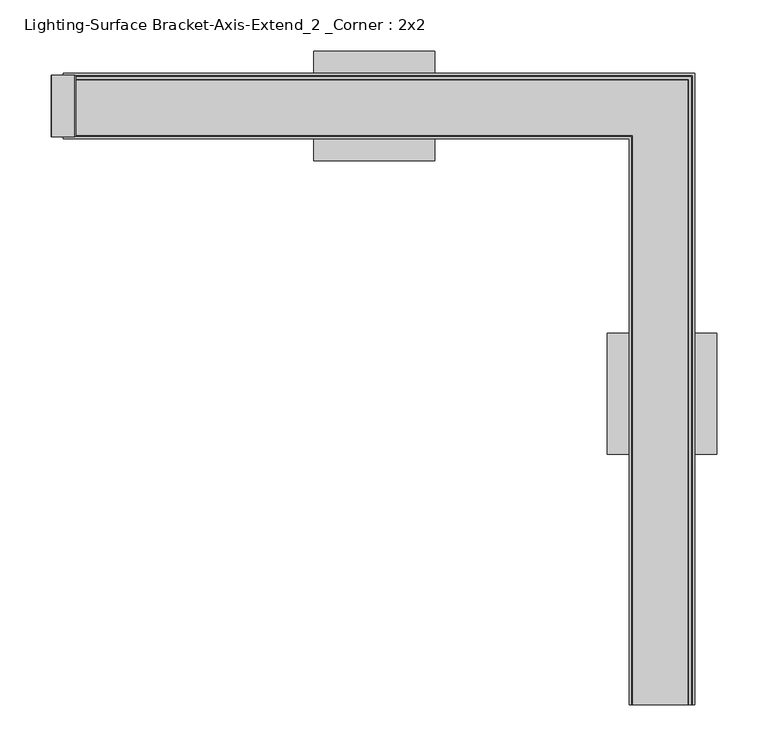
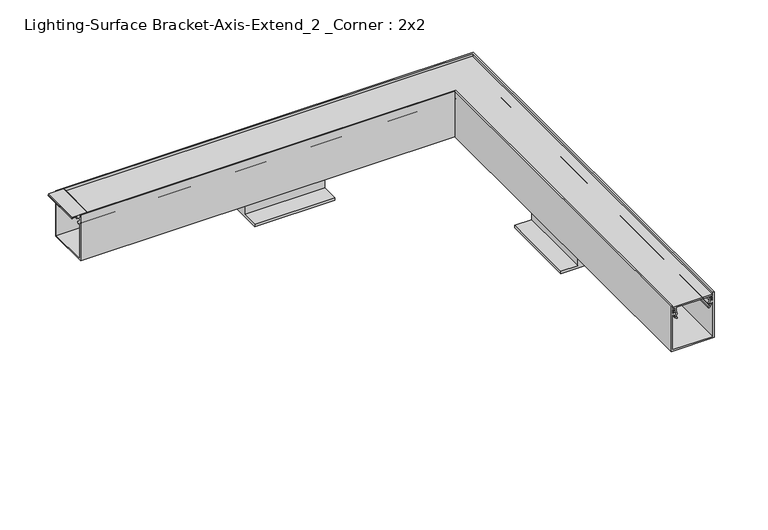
"""IFC4 building model written with IfcOpenShell, lengths in millimetres: light fixture geometry, Lighting-Surface Bracket-Axis-Extend_2 _Corner : 2x2."""

from ifc_helpers import new_model, si_unit, frame, origin, place, context, project, spatial, polyline, circle_curve, ellipse_curve, outline, extrude, source, transform, mapped, element, save
from ifc_brep_helpers import plane_surface, cylinder_surface, revolved_surface, advanced_brep


def lighting_surface_bracket_axis_extend_2_corner_2x2_9cdd9982(model_context):
    return source(origin(), model_context, "Body", "SolidModel", [
        extrude(outline(polyline([(19.05, 244.3861), (3.9878, 244.3861), (3.9878, 218.9860665), (0.0, 218.9860665), (0.0, 326.6059335), (3.9878, 326.6059335), (3.9878, 301.2059), (19.05, 301.2059), (19.05, 244.3861)])), frame((0.0, -341.30234, 0.0), z_axis=(0.0, 1.0, 0.0), x_axis=(0.0, 0.0, 1.0)), (0.0, 0.0, 1.0), 118.69928),
        extrude(outline(polyline([(-28.4099, 19.05), (28.4099, 19.05), (28.4099, 3.9878), (53.8099335, 3.9878), (53.8099335, 0.0), (-53.8099335, 0.0), (-53.8099335, 3.9878), (-28.4099, 3.9878), (-28.4099, 19.05)])), frame((-68.50634, 0.0, 0.0), z_axis=(1.0, 0.0, 0.0), x_axis=(0.0, 1.0, 0.0)), (0.0, 0.0, 1.0), 118.69928),
        extrude(outline(polyline([(89.3857861, -301.8536), (90.4875, -302.7781437), (90.4875, -325.1352563), (89.3857861, -326.0598), (87.91575, -326.0598), (87.91575, -325.26605), (88.7095, -325.26605), (88.7095, -318.7954), (85.9032981, -318.7954), (85.9032981, -309.118), (88.7095, -309.118), (88.7095, -302.64735), (87.91575, -302.64735), (87.91575, -301.8536), (89.3857861, -301.8536)])), frame((0.0, -29.972, 0.0), z_axis=(0.0, 1.0, 0.0), x_axis=(0.0, 0.0, 1.0)), (0.0, 0.0, 1.0), 59.944),
        advanced_brep(
        [(-304.8, -24.1727262, 85.5979991), (-304.8, -24.5114181, 79.1353737), (-304.8, -25.3818814, 72.5294903), (-304.8, -24.5665956, 71.0317575), (-304.8, -23.2119066, 69.8323555), (-304.8, -24.192808, 68.5043369), (-304.8, -25.7659952, 69.8971908), (-304.8, -27.1108807, 73.72776), (-304.8, -25.4753941, 77.7669658), (-304.8, -26.1394859, 79.6161789), (-304.8, -25.825992, 85.5979991), (-304.8, -28.829, 85.5979991), (-304.8, -28.829, 87.503), (-304.8, 28.829, 87.503), (-304.8, 28.829, 85.5979991), (-304.8, 25.825992, 85.5979991), (-304.8, 26.1394859, 79.6161789), (-304.8, 25.4753941, 77.7669658), (-304.8, 27.1108807, 73.72776), (-304.8, 25.7659952, 69.8971908), (-304.8, 24.192808, 68.5043369), (-304.8, 23.2119066, 69.8323555), (-304.8, 24.5665956, 71.0317575), (-304.8, 25.3818814, 72.5294903), (-304.8, 24.5114181, 79.1353737), (-304.8, 24.1727262, 85.5979991), (248.6232738, -586.7527, 85.5979991), (296.9687262, -586.7527, 85.5979991), (297.3074181, -586.7527, 79.1353737), (298.1778814, -586.7527, 72.5294903), (297.3625956, -586.7527, 71.0317575), (296.0079066, -586.7527, 69.8323555), (296.988808, -586.7527, 68.5043369), (298.5619952, -586.7527, 69.8971908), (299.9068807, -586.7527, 73.72776), (298.2713941, -586.7527, 77.7669658), (298.9354859, -586.7527, 79.6161789), (298.621992, -586.7527, 85.5979991), (301.625, -586.7527, 85.5979991), (301.625, -586.7527, 87.503), (243.967, -586.7527, 87.503), (243.967, -586.7527, 85.5979991), (246.970008, -586.7527, 85.5979991), (246.6565141, -586.7527, 79.6161789), (247.3206059, -586.7527, 77.7669658), (245.6851193, -586.7527, 73.72776), (247.0300048, -586.7527, 69.8971908), (248.603192, -586.7527, 68.5043369), (249.5840934, -586.7527, 69.8323555), (248.2294044, -586.7527, 71.0317575), (247.4141186, -586.7527, 72.5294903), (248.2845819, -586.7527, 79.1353737), (248.6232738, -24.1727262, 85.5979991), (248.2845819, -24.5114181, 79.1353737), (247.4141186, -25.3818814, 72.5294903), (248.2294044, -24.5665956, 71.0317575), (249.5840934, -23.2119066, 69.8323555), (248.603192, -24.192808, 68.5043369), (247.0300048, -25.7659952, 69.8971908), (245.6851193, -27.1108807, 73.72776), (247.3206059, -25.4753941, 77.7669658), (246.6565141, -26.1394859, 79.6161789), (246.970008, -25.825992, 85.5979991), (243.967, -28.829, 85.5979991), (243.967, -28.829, 87.503), (301.625, 28.829, 87.503), (301.625, 28.829, 85.5979991), (298.621992, 25.825992, 85.5979991), (298.9354859, 26.1394859, 79.6161789), (298.2713941, 25.4753941, 77.7669658), (299.9068807, 27.1108807, 73.72776), (298.5619952, 25.7659952, 69.8971908), (296.988808, 24.192808, 68.5043369), (296.0079066, 23.2119066, 69.8323555), (297.3625956, 24.5665956, 71.0317575), (298.1778814, 25.3818814, 72.5294903), (297.3074181, 24.5114181, 79.1353737), (296.9687262, 24.1727262, 85.5979991)],
        [
            (0, 1),
            (1, 2, circle_curve(frame((-304.8, -27.2542, 76.1365), z_axis=(-1.0, 0.0, 0.0), x_axis=(0.0, 0.6748971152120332, 0.7379118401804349)), 4.064)),
            (2, 3, circle_curve(frame((-304.8, -22.149344, 73.3183457), z_axis=(1.0, 0.0, 0.0), x_axis=(0.0, -0.9714904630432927, -0.23707863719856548)), 3.3274001)),
            (3, 4, circle_curve(frame((-304.8, -17.1303177, 78.0660708), z_axis=(1.0, 0.0, 0.0), x_axis=(0.0, -0.7264901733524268, -0.68717685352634)), 10.2362001)),
            (4, 5, circle_curve(frame((-304.8, -23.7023573, 69.1683462), z_axis=(-1.0, 0.0, 0.0), x_axis=(0.0, 0.5941256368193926, 0.8043722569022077)), 0.8255)),
            (5, 6, circle_curve(frame((-304.8, -17.1303169, 78.0660717), z_axis=(-1.0, 0.0, 0.0), x_axis=(0.0, -0.594125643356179, -0.8043722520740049)), 11.8872013)),
            (6, 7, circle_curve(frame((-304.8, -22.149344, 73.3183457), z_axis=(-1.0, 0.0, 0.0), x_axis=(0.0, -0.7264685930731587, -0.6871996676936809)), 4.9784001)),
            (7, 8, circle_curve(frame((-304.8, -27.2542, 76.1365), z_axis=(1.0, 0.0, 0.0), x_axis=(0.0, 0.05939464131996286, -0.9982345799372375)), 2.413)),
            (8, 9, circle_curve(frame((-304.8, -23.6029669, 79.4832456), z_axis=(-1.0, 0.0, 0.0), x_axis=(0.0, -0.7371760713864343, -0.675700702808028)), 2.54)),
            (9, 10),
            (10, 11),
            (11, 12),
            (12, 13),
            (13, 14),
            (14, 15),
            (15, 16),
            (16, 17, circle_curve(frame((-304.8, 23.6029669, 79.4832456), z_axis=(-1.0, 0.0, 0.0), x_axis=(0.0, 0.9986295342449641, 0.05233596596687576)), 2.54)),
            (17, 18, circle_curve(frame((-304.8, 27.2542, 76.1365), z_axis=(1.0, 0.0, 0.0), x_axis=(0.0, -0.7371760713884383, 0.6757007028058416)), 2.413)),
            (18, 19, circle_curve(frame((-304.8, 22.149344, 73.3183457), z_axis=(-1.0, 0.0, 0.0), x_axis=(0.0, 0.9966127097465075, 0.0822381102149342)), 4.9784001)),
            (19, 20, circle_curve(frame((-304.8, 17.1303169, 78.0660717), z_axis=(-1.0, 0.0, 0.0), x_axis=(0.0, 0.7264685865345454, -0.6871996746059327)), 11.8872013)),
            (20, 21, circle_curve(frame((-304.8, 23.7023573, 69.1683462), z_axis=(-1.0, 0.0, 0.0), x_axis=(0.0, 0.5941256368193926, -0.8043722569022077)), 0.8255)),
            (21, 22, circle_curve(frame((-304.8, 17.1303177, 78.0660708), z_axis=(1.0, 0.0, 0.0), x_axis=(0.0, 0.5941256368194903, -0.8043722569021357)), 10.2362001)),
            (22, 23, circle_curve(frame((-304.8, 22.149344, 73.3183457), z_axis=(1.0, 0.0, 0.0), x_axis=(0.0, 0.7265349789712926, -0.6871294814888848)), 3.3274001)),
            (23, 24, circle_curve(frame((-304.8, 27.2542, 76.1365), z_axis=(-1.0, 0.0, 0.0), x_axis=(0.0, -0.46070831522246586, -0.8875516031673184)), 4.064)),
            (24, 25),
            (25, 0),
            (26, 27),
            (27, 28),
            (28, 29, circle_curve(frame((300.0502, -586.7527, 76.1365), z_axis=(0.0, -1.0, 0.0), x_axis=(-0.46070831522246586, 0.0, -0.8875516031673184)), 4.064)),
            (29, 30, circle_curve(frame((294.945344, -586.7527, 73.3183457), z_axis=(0.0, 1.0, 0.0), x_axis=(0.7265349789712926, 0.0, -0.6871294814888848)), 3.3274001)),
            (30, 31, circle_curve(frame((289.9263177, -586.7527, 78.0660708), z_axis=(0.0, 1.0, 0.0), x_axis=(0.5941256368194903, 0.0, -0.8043722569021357)), 10.2362001)),
            (31, 32, circle_curve(frame((296.4983573, -586.7527, 69.1683462), z_axis=(0.0, -1.0, 0.0), x_axis=(0.5941256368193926, 0.0, -0.8043722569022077)), 0.8255)),
            (32, 33, circle_curve(frame((289.9263169, -586.7527, 78.0660717), z_axis=(0.0, -1.0, 0.0), x_axis=(0.7264685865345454, 0.0, -0.6871996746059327)), 11.8872013)),
            (33, 34, circle_curve(frame((294.945344, -586.7527, 73.3183457), z_axis=(0.0, -1.0, 0.0), x_axis=(0.9966127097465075, 0.0, 0.0822381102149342)), 4.9784001)),
            (34, 35, circle_curve(frame((300.0502, -586.7527, 76.1365), z_axis=(0.0, 1.0, 0.0), x_axis=(-0.7371760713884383, 0.0, 0.6757007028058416)), 2.413)),
            (35, 36, circle_curve(frame((296.3989669, -586.7527, 79.4832456), z_axis=(0.0, -1.0, 0.0), x_axis=(0.9986295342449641, 0.0, 0.05233596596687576)), 2.54)),
            (36, 37),
            (37, 38),
            (38, 39),
            (39, 40),
            (40, 41),
            (41, 42),
            (42, 43),
            (43, 44, circle_curve(frame((249.1930331, -586.7527, 79.4832456), z_axis=(0.0, -1.0, 0.0), x_axis=(-0.7371760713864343, 0.0, -0.675700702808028)), 2.54)),
            (44, 45, circle_curve(frame((245.5418, -586.7527, 76.1365), z_axis=(0.0, 1.0, 0.0), x_axis=(0.05939464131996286, 0.0, -0.9982345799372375)), 2.413)),
            (45, 46, circle_curve(frame((250.646656, -586.7527, 73.3183457), z_axis=(0.0, -1.0, 0.0), x_axis=(-0.7264685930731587, 0.0, -0.6871996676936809)), 4.9784001)),
            (46, 47, circle_curve(frame((255.6656831, -586.7527, 78.0660717), z_axis=(0.0, -1.0, 0.0), x_axis=(-0.594125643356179, 0.0, -0.8043722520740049)), 11.8872013)),
            (47, 48, circle_curve(frame((249.0936427, -586.7527, 69.1683462), z_axis=(0.0, -1.0, 0.0), x_axis=(0.5941256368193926, 0.0, 0.8043722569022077)), 0.8255)),
            (48, 49, circle_curve(frame((255.6656823, -586.7527, 78.0660708), z_axis=(0.0, 1.0, 0.0), x_axis=(-0.7264901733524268, 0.0, -0.68717685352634)), 10.2362001)),
            (49, 50, circle_curve(frame((250.646656, -586.7527, 73.3183457), z_axis=(0.0, 1.0, 0.0), x_axis=(-0.9714904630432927, 0.0, -0.23707863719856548)), 3.3274001)),
            (50, 51, circle_curve(frame((245.5418, -586.7527, 76.1365), z_axis=(0.0, -1.0, 0.0), x_axis=(0.6748971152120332, 0.0, 0.7379118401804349)), 4.064)),
            (51, 26),
            (0, 52),
            (52, 53),
            (53, 1),
            (53, 54, ellipse_curve(frame((245.5418, -27.2542, 76.1365), z_axis=(-0.7071067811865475, 0.7071067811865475, 0.0), x_axis=(-0.7071067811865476, -0.7071067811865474, 0.0)), 5.7473639, 4.064)),
            (54, 2),
            (54, 55, ellipse_curve(frame((250.646656, -22.149344, 73.3183457), z_axis=(0.7071067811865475, -0.7071067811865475, 0.0), x_axis=(0.7071067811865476, 0.7071067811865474, 0.0)), 4.7056543, 3.3274001)),
            (55, 3),
            (55, 56, ellipse_curve(frame((255.6656823, -17.1303177, 78.0660708), z_axis=(0.7071067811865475, -0.7071067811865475, 0.0), x_axis=(0.7071067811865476, 0.7071067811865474, 0.0)), 14.476173, 10.2362001)),
            (56, 4),
            (56, 57, ellipse_curve(frame((249.0936427, -23.7023573, 69.1683462), z_axis=(-0.7071067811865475, 0.7071067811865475, 0.0), x_axis=(-0.7071067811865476, -0.7071067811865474, 0.0)), 1.1674333, 0.8255)),
            (57, 5),
            (57, 58, ellipse_curve(frame((255.6656831, -17.1303169, 78.0660717), z_axis=(-0.7071067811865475, 0.7071067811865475, 0.0), x_axis=(-0.7071067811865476, -0.7071067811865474, 0.0)), 16.8110412, 11.8872013)),
            (58, 6),
            (58, 59, ellipse_curve(frame((250.646656, -22.149344, 73.3183457), z_axis=(-0.7071067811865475, 0.7071067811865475, 0.0), x_axis=(-0.7071067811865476, -0.7071067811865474, 0.0)), 7.0405209, 4.9784001)),
            (59, 7),
            (59, 60, ellipse_curve(frame((245.5418, -27.2542, 76.1365), z_axis=(0.7071067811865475, -0.7071067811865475, 0.0), x_axis=(0.7071067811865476, 0.7071067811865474, 0.0)), 3.4124973, 2.413)),
            (60, 8),
            (60, 61, ellipse_curve(frame((249.1930331, -23.6029669, 79.4832456), z_axis=(-0.7071067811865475, 0.7071067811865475, 0.0), x_axis=(-0.7071067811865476, -0.7071067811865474, 0.0)), 3.5921024, 2.54)),
            (61, 9),
            (61, 62),
            (62, 10),
            (62, 42),
            (41, 63),
            (63, 11),
            (63, 64),
            (64, 12),
            (64, 40),
            (39, 65),
            (65, 13),
            (65, 66),
            (66, 14),
            (66, 38),
            (37, 67),
            (67, 15),
            (67, 68),
            (68, 16),
            (68, 69, ellipse_curve(frame((296.3989669, 23.6029669, 79.4832456), z_axis=(-0.7071067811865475, 0.7071067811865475, 0.0), x_axis=(-0.7071067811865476, -0.7071067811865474, 0.0)), 3.5921024, 2.54)),
            (69, 17),
            (69, 70, ellipse_curve(frame((300.0502, 27.2542, 76.1365), z_axis=(0.7071067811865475, -0.7071067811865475, 0.0), x_axis=(0.7071067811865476, 0.7071067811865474, 0.0)), 3.4124973, 2.413)),
            (70, 18),
            (70, 71, ellipse_curve(frame((294.945344, 22.149344, 73.3183457), z_axis=(-0.7071067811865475, 0.7071067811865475, 0.0), x_axis=(-0.7071067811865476, -0.7071067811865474, 0.0)), 7.0405209, 4.9784001)),
            (71, 19),
            (71, 72, ellipse_curve(frame((289.9263169, 17.1303169, 78.0660717), z_axis=(-0.7071067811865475, 0.7071067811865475, 0.0), x_axis=(-0.7071067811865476, -0.7071067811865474, 0.0)), 16.8110412, 11.8872013)),
            (72, 20),
            (72, 73, ellipse_curve(frame((296.4983573, 23.7023573, 69.1683462), z_axis=(-0.7071067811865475, 0.7071067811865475, 0.0), x_axis=(-0.7071067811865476, -0.7071067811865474, 0.0)), 1.1674333, 0.8255)),
            (73, 21),
            (73, 74, ellipse_curve(frame((289.9263177, 17.1303177, 78.0660708), z_axis=(0.7071067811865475, -0.7071067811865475, 0.0), x_axis=(0.7071067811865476, 0.7071067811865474, 0.0)), 14.476173, 10.2362001)),
            (74, 22),
            (74, 75, ellipse_curve(frame((294.945344, 22.149344, 73.3183457), z_axis=(0.7071067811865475, -0.7071067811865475, 0.0), x_axis=(0.7071067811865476, 0.7071067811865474, 0.0)), 4.7056543, 3.3274001)),
            (75, 23),
            (75, 76, ellipse_curve(frame((300.0502, 27.2542, 76.1365), z_axis=(-0.7071067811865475, 0.7071067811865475, 0.0), x_axis=(-0.7071067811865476, -0.7071067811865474, 0.0)), 5.7473639, 4.064)),
            (76, 24),
            (76, 77),
            (77, 25),
            (77, 27),
            (26, 52),
            (51, 53),
            (50, 54),
            (49, 55),
            (48, 56),
            (47, 57),
            (46, 58),
            (45, 59),
            (44, 60),
            (43, 61),
            (36, 68),
            (35, 69),
            (34, 70),
            (33, 71),
            (32, 72),
            (31, 73),
            (30, 74),
            (29, 75),
            (28, 76),
        ],
        [
            plane_surface(frame((-304.8, 0.0, 0.0), z_axis=(-1.0, 0.0, 0.0), x_axis=(0.0, 0.0, 1.0))),
            plane_surface(frame((272.796, -586.7527, 0.0), z_axis=(0.0, -1.0, 0.0), x_axis=(0.0, 0.0, 1.0))),
            plane_surface(frame((-304.8, -24.1727262, 85.5979991), z_axis=(0.0, 0.9986295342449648, -0.05233596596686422), x_axis=(1.0, 0.0, 0.0))),
            cylinder_surface(frame((-304.8, -27.2542, 76.1365), z_axis=(-1.0, 0.0, 0.0), x_axis=(0.0, 0.6748971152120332, 0.7379118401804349)), 4.064),
            revolved_surface(polyline([(253.97405606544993, -25.3818814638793, 72.52949021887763), (-304.8, -25.3818814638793, 72.52949021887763)]), (-304.8, -22.149344, 73.3183457), (1.0000000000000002, 0.0, 0.0)),
            revolved_surface(polyline([(265.9018823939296, -24.566816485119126, 71.031991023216), (-304.8, -24.566816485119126, 71.031991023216)]), (-304.8, -17.1303177, 78.0660708), (1.0, 0.0, 0.0)),
            cylinder_surface(frame((-304.8, -23.7023573, 69.1683462), z_axis=(-1.0, 0.0, 0.0), x_axis=(0.0, 0.5941256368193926, 0.8043722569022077)), 0.8255),
            cylinder_surface(frame((-304.8, -17.1303169, 78.0660717), z_axis=(-1.0, 0.0, 0.0), x_axis=(0.0, -0.594125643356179, -0.8043722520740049)), 11.8872013),
            cylinder_surface(frame((-304.8, -22.149344, 73.3183457), z_axis=(-1.0, 0.0, 0.0), x_axis=(0.0, -0.7264685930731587, -0.6871996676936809)), 4.9784001),
            revolved_surface(polyline([(247.95479998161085, -27.11088073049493, 73.72775995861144), (-304.8, -27.11088073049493, 73.72775995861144)]), (-304.8, -27.2542, 76.1365), (1.0, 0.0, 0.0)),
            cylinder_surface(frame((-304.8, -23.6029669, 79.4832456), z_axis=(-1.0, 0.0, 0.0), x_axis=(0.0, -0.7371760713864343, -0.675700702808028)), 2.54),
            plane_surface(frame((-304.8, -26.1394859, 79.6161789), z_axis=(0.0, -0.9986295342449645, 0.05233596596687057), x_axis=(1.0, 0.0, 0.0))),
            plane_surface(frame((-304.8, -25.825992, 85.5979991), z_axis=(0.0, 0.0, -1.0), x_axis=(1.0, 0.0, 0.0))),
            plane_surface(frame((-304.8, -28.829, 85.5979991), z_axis=(0.0, -1.0, 0.0), x_axis=(1.0, 0.0, 0.0))),
            plane_surface(frame((-304.8, -28.829, 87.503), z_axis=(0.0, 0.0, 1.0), x_axis=(1.0, 0.0, 0.0))),
            plane_surface(frame((-304.8, 28.829, 87.503), z_axis=(0.0, 1.0, 0.0), x_axis=(1.0, 0.0, 0.0))),
            plane_surface(frame((-304.8, 28.829, 85.5979991), z_axis=(0.0, 0.0, -1.0), x_axis=(1.0, 0.0, 0.0))),
            plane_surface(frame((-304.8, 25.825992, 85.5979991), z_axis=(0.0, 0.9986295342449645, 0.05233596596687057), x_axis=(1.0, 0.0, 0.0))),
            cylinder_surface(frame((-304.8, 23.6029669, 79.4832456), z_axis=(-1.0, 0.0, 0.0), x_axis=(0.0, 0.9986295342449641, 0.05233596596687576)), 2.54),
            revolved_surface(polyline([(302.4631999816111, 25.4753941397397, 77.76696579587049), (-304.8, 25.4753941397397, 77.76696579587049)]), (-304.8, 27.2542, 76.1365), (1.0000000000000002, 0.0, 0.0)),
            cylinder_surface(frame((-304.8, 22.149344, 73.3183457), z_axis=(-1.0000000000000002, 0.0, 0.0), x_axis=(0.0, 0.9966127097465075, 0.0822381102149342)), 4.9784001),
            cylinder_surface(frame((-304.8, 17.1303169, 78.0660717), z_axis=(-1.0, 0.0, 0.0), x_axis=(0.0, 0.7264685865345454, -0.6871996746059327)), 11.8872013),
            cylinder_surface(frame((-304.8, 23.7023573, 69.1683462), z_axis=(-1.0, 0.0, 0.0), x_axis=(0.0, 0.5941256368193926, -0.8043722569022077)), 0.8255),
            revolved_surface(polyline([(300.16251779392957, 23.21190660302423, 69.83235542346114), (-304.8, 23.21190660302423, 69.83235542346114)]), (-304.8, 17.1303177, 78.0660708), (1.0, 0.0, 0.0)),
            revolved_surface(polyline([(298.2727440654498, 24.566816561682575, 71.03199099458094), (-304.8, 24.566816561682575, 71.03199099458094)]), (-304.8, 22.149344, 73.3183457), (1.0000000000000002, 0.0, 0.0)),
            cylinder_surface(frame((-304.8, 27.2542, 76.1365), z_axis=(-1.0, 0.0, 0.0), x_axis=(0.0, -0.46070831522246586, -0.8875516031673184)), 4.064),
            plane_surface(frame((-304.8, 24.5114181, 79.1353737), z_axis=(0.0, -0.9986295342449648, -0.05233596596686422), x_axis=(1.0, 0.0, 0.0))),
            plane_surface(frame((-304.8, 24.1727262, 85.5979991), z_axis=(0.0, 0.0, -1.0), x_axis=(1.0, 0.0, 0.0))),
            plane_surface(frame((248.6232738, -24.1727262, 85.5979991), z_axis=(0.9986295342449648, 0.0, -0.05233596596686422), x_axis=(0.0, -1.0, 0.0))),
            cylinder_surface(frame((245.5418, 0.0, 76.1365), z_axis=(0.0, 1.0, 0.0), x_axis=(0.6748971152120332, 0.0, 0.7379118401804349)), 4.064),
            revolved_surface(polyline([(247.4141185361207, -586.7527000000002, 72.52949021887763), (247.4141185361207, -18.82194393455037, 72.52949021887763)]), (250.646656, 0.0, 73.3183457), (0.0, -1.0000000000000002, 0.0)),
            revolved_surface(polyline([(248.22918351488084, -586.7527, 71.031991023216), (248.22918351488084, -6.894117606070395, 71.031991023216)]), (255.6656823, 0.0, 78.0660708), (0.0, -1.0, 0.0)),
            cylinder_surface(frame((249.0936427, 0.0, 69.1683462), z_axis=(0.0, 1.0, 0.0), x_axis=(0.5941256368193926, 0.0, 0.8043722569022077)), 0.8255),
            cylinder_surface(frame((255.6656831, 0.0, 78.0660717), z_axis=(0.0, 1.0, 0.0), x_axis=(-0.594125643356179, 0.0, -0.8043722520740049)), 11.8872013),
            cylinder_surface(frame((250.646656, 0.0, 73.3183457), z_axis=(0.0, 1.0, 0.0), x_axis=(-0.7264685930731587, 0.0, -0.6871996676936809)), 4.9784001),
            revolved_surface(polyline([(245.68511926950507, -586.7527, 73.72775995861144), (245.68511926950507, -24.841200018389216, 73.72775995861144)]), (245.5418, 0.0, 76.1365), (0.0, -1.0, 0.0)),
            cylinder_surface(frame((249.1930331, 0.0, 79.4832456), z_axis=(0.0, 1.0, 0.0), x_axis=(-0.7371760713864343, 0.0, -0.675700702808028)), 2.54),
            plane_surface(frame((246.6565141, -26.1394859, 79.6161789), z_axis=(-0.9986295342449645, 0.0, 0.05233596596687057), x_axis=(0.0, -1.0, 0.0))),
            plane_surface(frame((243.967, -28.829, 85.5979991), z_axis=(-1.0, 0.0, 0.0), x_axis=(0.0, -1.0, 0.0))),
            plane_surface(frame((301.625, 28.829, 87.503), z_axis=(1.0, 0.0, 0.0), x_axis=(0.0, -1.0, 0.0))),
            plane_surface(frame((298.621992, 25.825992, 85.5979991), z_axis=(0.9986295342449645, 0.0, 0.05233596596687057), x_axis=(0.0, -1.0, 0.0))),
            cylinder_surface(frame((296.3989669, 0.0, 79.4832456), z_axis=(0.0, 1.0, 0.0), x_axis=(0.9986295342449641, 0.0, 0.05233596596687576)), 2.54),
            revolved_surface(polyline([(298.2713941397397, -586.7527000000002, 77.76696579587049), (298.2713941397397, 29.6671999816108, 77.76696579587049)]), (300.0502, 0.0, 76.1365), (0.0, -1.0000000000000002, 0.0)),
            cylinder_surface(frame((294.945344, 0.0, 73.3183457), z_axis=(0.0, 1.0000000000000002, 0.0), x_axis=(0.9966127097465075, 0.0, 0.0822381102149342)), 4.9784001),
            cylinder_surface(frame((289.9263169, 0.0, 78.0660717), z_axis=(0.0, 1.0, 0.0), x_axis=(0.7264685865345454, 0.0, -0.6871996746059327)), 11.8872013),
            cylinder_surface(frame((296.4983573, 0.0, 69.1683462), z_axis=(0.0, 1.0, 0.0), x_axis=(0.5941256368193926, 0.0, -0.8043722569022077)), 0.8255),
            revolved_surface(polyline([(296.00790660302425, -586.7527, 69.83235542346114), (296.00790660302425, 27.366517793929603, 69.83235542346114)]), (289.9263177, 0.0, 78.0660708), (0.0, -1.0, 0.0)),
            revolved_surface(polyline([(297.36281656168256, -586.7527000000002, 71.03199099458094), (297.36281656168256, 25.476744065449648, 71.03199099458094)]), (294.945344, 0.0, 73.3183457), (0.0, -1.0000000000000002, 0.0)),
            cylinder_surface(frame((300.0502, 0.0, 76.1365), z_axis=(0.0, 1.0, 0.0), x_axis=(-0.46070831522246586, 0.0, -0.8875516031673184)), 4.064),
            plane_surface(frame((297.3074181, 24.5114181, 79.1353737), z_axis=(-0.9986295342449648, 0.0, -0.05233596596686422), x_axis=(0.0, -1.0, 0.0))),
        ],
        [
            (0, [[1, 2, 3, 4, 5, 6, 7, 8, 9, 10, 11, 12, 13, 14, 15, 16, 17, 18, 19, 20, 21, 22, 23, 24, 25, 26]]),
            (1, [[27, 28, 29, 30, 31, 32, 33, 34, 35, 36, 37, 38, 39, 40, 41, 42, 43, 44, 45, 46, 47, 48, 49, 50, 51, 52]]),
            (2, [[-1, 53, 54, 55]]),
            (3, [[-2, -55, 56, 57]]),
            (4, [[-3, -57, 58, 59]]),
            (5, [[-4, -59, 60, 61]]),
            (6, [[-5, -61, 62, 63]]),
            (7, [[-6, -63, 64, 65]]),
            (8, [[-7, -65, 66, 67]]),
            (9, [[-8, -67, 68, 69]]),
            (10, [[-9, -69, 70, 71]]),
            (11, [[-10, -71, 72, 73]]),
            (12, [[-11, -73, 74, -42, 75, 76]]),
            (13, [[-12, -76, 77, 78]]),
            (14, [[-13, -78, 79, -40, 80, 81]]),
            (15, [[-14, -81, 82, 83]]),
            (16, [[-15, -83, 84, -38, 85, 86]]),
            (17, [[-16, -86, 87, 88]]),
            (18, [[-17, -88, 89, 90]]),
            (19, [[-18, -90, 91, 92]]),
            (20, [[-19, -92, 93, 94]]),
            (21, [[-20, -94, 95, 96]]),
            (22, [[-21, -96, 97, 98]]),
            (23, [[-22, -98, 99, 100]]),
            (24, [[-23, -100, 101, 102]]),
            (25, [[-24, -102, 103, 104]]),
            (26, [[-25, -104, 105, 106]]),
            (27, [[-26, -106, 107, -27, 108, -53]]),
            (28, [[-54, -108, -52, 109]]),
            (29, [[-56, -109, -51, 110]]),
            (30, [[-58, -110, -50, 111]]),
            (31, [[-60, -111, -49, 112]]),
            (32, [[-62, -112, -48, 113]]),
            (33, [[-64, -113, -47, 114]]),
            (34, [[-66, -114, -46, 115]]),
            (35, [[-68, -115, -45, 116]]),
            (36, [[-70, -116, -44, 117]]),
            (37, [[-72, -117, -43, -74]]),
            (38, [[-77, -75, -41, -79]]),
            (39, [[-82, -80, -39, -84]]),
            (40, [[-87, -85, -37, 118]]),
            (41, [[-89, -118, -36, 119]]),
            (42, [[-91, -119, -35, 120]]),
            (43, [[-93, -120, -34, 121]]),
            (44, [[-95, -121, -33, 122]]),
            (45, [[-97, -122, -32, 123]]),
            (46, [[-99, -123, -31, 124]]),
            (47, [[-101, -124, -30, 125]]),
            (48, [[-103, -125, -29, 126]]),
            (49, [[-105, -126, -28, -107]]),
        ],
    ),
        advanced_brep(
        [(-313.9567, -29.972, 75.5777), (-313.9567, -29.972, 21.082), (-313.9567, 29.972, 21.082), (-313.9567, 29.972, 75.5777), (-313.9567, 28.1325797, 75.5777), (-313.9567, 25.8730546, 74.2731626), (-313.9567, 24.6896516, 76.5283682), (-313.9567, 28.067, 79.3623), (-313.9567, 28.067, 77.6097), (-313.9567, 29.972, 77.6097), (-313.9567, 29.972, 84.1375), (-313.9567, 28.067, 84.1375), (-313.9567, 28.067, 82.6135), (-313.9567, 26.416, 82.7000252), (-313.9567, 26.416, 85.4075), (-313.9567, 29.972, 85.4075), (-313.9567, 29.972, 90.4875), (-313.9567, 32.004, 90.4875), (-313.9567, 32.004, 19.05), (-313.9567, -32.004, 19.05), (-313.9567, -32.004, 90.4875), (-313.9567, -29.972, 90.4875), (-313.9567, -29.972, 85.4075), (-313.9567, -26.416, 85.4075), (-313.9567, -26.416, 82.7000252), (-313.9567, -28.067, 82.6135), (-313.9567, -28.067, 84.1375), (-313.9567, -29.972, 84.1375), (-313.9567, -29.972, 77.6097), (-313.9567, -28.067, 77.6097), (-313.9567, -28.067, 79.3623), (-313.9567, -24.6896516, 76.5283682), (-313.9567, -25.8730546, 74.2731626), (-313.9567, -28.1325797, 75.5777), (242.824, -586.7527, 75.5777), (244.6634203, -586.7527, 75.5777), (246.9229454, -586.7527, 74.2731626), (248.1063484, -586.7527, 76.5283682), (244.729, -586.7527, 79.3623), (244.729, -586.7527, 77.6097), (242.824, -586.7527, 77.6097), (242.824, -586.7527, 84.1375), (244.729, -586.7527, 84.1375), (244.729, -586.7527, 82.6135), (246.38, -586.7527, 82.7000252), (246.38, -586.7527, 85.4075), (242.824, -586.7527, 85.4075), (242.824, -586.7527, 90.4875), (240.792, -586.7527, 90.4875), (240.792, -586.7527, 19.05), (304.8, -586.7527, 19.05), (304.8, -586.7527, 90.4875), (302.768, -586.7527, 90.4875), (302.768, -586.7527, 85.4075), (299.212, -586.7527, 85.4075), (299.212, -586.7527, 82.7000252), (300.863, -586.7527, 82.6135), (300.863, -586.7527, 84.1375), (302.768, -586.7527, 84.1375), (302.768, -586.7527, 77.6097), (300.863, -586.7527, 77.6097), (300.863, -586.7527, 79.3623), (297.4856516, -586.7527, 76.5283682), (298.6690546, -586.7527, 74.2731626), (300.9285797, -586.7527, 75.5777), (302.768, -586.7527, 75.5777), (302.768, -586.7527, 21.082), (242.824, -586.7527, 21.082), (242.824, -29.972, 75.5777), (242.824, -29.972, 21.082), (302.768, 29.972, 21.082), (302.768, 29.972, 75.5777), (300.9285797, 28.1325797, 75.5777), (298.6690546, 25.8730546, 74.2731626), (297.4856516, 24.6896516, 76.5283682), (300.863, 28.067, 79.3623), (300.863, 28.067, 77.6097), (302.768, 29.972, 77.6097), (302.768, 29.972, 84.1375), (300.863, 28.067, 84.1375), (300.863, 28.067, 82.6135), (299.212, 26.416, 82.7000252), (299.212, 26.416, 85.4075), (302.768, 29.972, 85.4075), (302.768, 29.972, 90.4875), (304.8, 32.004, 90.4875), (304.8, 32.004, 19.05), (240.792, -32.004, 19.05), (240.792, -32.004, 90.4875), (242.824, -29.972, 90.4875), (242.824, -29.972, 85.4075), (246.38, -26.416, 85.4075), (246.38, -26.416, 82.7000252), (244.729, -28.067, 82.6135), (244.729, -28.067, 84.1375), (242.824, -29.972, 84.1375), (242.824, -29.972, 77.6097), (244.729, -28.067, 77.6097), (244.729, -28.067, 79.3623), (248.1063484, -24.6896516, 76.5283682), (246.9229454, -25.8730546, 74.2731626), (244.6634203, -28.1325797, 75.5777)],
        [
            (0, 1),
            (1, 2),
            (2, 3),
            (3, 4),
            (4, 5, circle_curve(frame((-313.9567, 26.6262297, 75.5777), z_axis=(-1.0, 0.0, 0.0), x_axis=(0.0, -0.5000000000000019, -0.8660254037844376)), 1.5063501)),
            (5, 6, circle_curve(frame((-313.9567, 27.0642121, 76.3363079), z_axis=(-1.0, 0.0, 0.0), x_axis=(0.0, -0.9967449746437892, 0.08061920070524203)), 2.382315)),
            (6, 7),
            (7, 8),
            (8, 9),
            (9, 10),
            (10, 11),
            (11, 12),
            (12, 13),
            (13, 14),
            (14, 15),
            (15, 16),
            (16, 17),
            (17, 18),
            (18, 19),
            (19, 20),
            (20, 21),
            (21, 22),
            (22, 23),
            (23, 24),
            (24, 25),
            (25, 26),
            (26, 27),
            (27, 28),
            (28, 29),
            (29, 30),
            (30, 31),
            (31, 32, circle_curve(frame((-313.9567, -27.0642121, 76.3363079), z_axis=(-1.0, 0.0, 0.0), x_axis=(0.0, 0.5000000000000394, -0.866025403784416)), 2.382315)),
            (32, 33, circle_curve(frame((-313.9567, -26.6262297, 75.5777), z_axis=(-1.0, 0.0, 0.0), x_axis=(0.0, -1.0, 0.0)), 1.5063501)),
            (33, 0),
            (34, 35),
            (35, 36, circle_curve(frame((246.1697703, -586.7527, 75.5777), z_axis=(0.0, -1.0, 0.0), x_axis=(-1.0, 0.0, 0.0)), 1.5063501)),
            (36, 37, circle_curve(frame((245.7317879, -586.7527, 76.3363079), z_axis=(0.0, -1.0, 0.0), x_axis=(0.5000000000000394, 0.0, -0.866025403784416)), 2.382315)),
            (37, 38),
            (38, 39),
            (39, 40),
            (40, 41),
            (41, 42),
            (42, 43),
            (43, 44),
            (44, 45),
            (45, 46),
            (46, 47),
            (47, 48),
            (48, 49),
            (49, 50),
            (50, 51),
            (51, 52),
            (52, 53),
            (53, 54),
            (54, 55),
            (55, 56),
            (56, 57),
            (57, 58),
            (58, 59),
            (59, 60),
            (60, 61),
            (61, 62),
            (62, 63, circle_curve(frame((299.8602121, -586.7527, 76.3363079), z_axis=(0.0, -1.0, 0.0), x_axis=(-0.9967449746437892, 0.0, 0.08061920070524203)), 2.382315)),
            (63, 64, circle_curve(frame((299.4222297, -586.7527, 75.5777), z_axis=(0.0, -1.0, 0.0), x_axis=(-0.5000000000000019, 0.0, -0.8660254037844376)), 1.5063501)),
            (64, 65),
            (65, 66),
            (66, 67),
            (67, 34),
            (0, 68),
            (68, 69),
            (69, 1),
            (69, 67),
            (66, 70),
            (70, 2),
            (70, 71),
            (71, 3),
            (71, 65),
            (64, 72),
            (72, 4),
            (72, 73, ellipse_curve(frame((299.4222297, 26.6262297, 75.5777), z_axis=(-0.7071067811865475, 0.7071067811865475, 0.0), x_axis=(-0.7071067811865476, -0.7071067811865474, 0.0)), 2.1303007, 1.5063501)),
            (73, 5),
            (73, 74, ellipse_curve(frame((299.8602121, 27.0642121, 76.3363079), z_axis=(-0.7071067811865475, 0.7071067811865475, 0.0), x_axis=(-0.7071067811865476, -0.7071067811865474, 0.0)), 3.3691022, 2.382315)),
            (74, 6),
            (74, 75),
            (75, 7),
            (75, 76),
            (76, 8),
            (76, 60),
            (59, 77),
            (77, 9),
            (77, 78),
            (78, 10),
            (78, 58),
            (57, 79),
            (79, 11),
            (79, 80),
            (80, 12),
            (80, 81),
            (81, 13),
            (81, 82),
            (82, 14),
            (82, 54),
            (53, 83),
            (83, 15),
            (83, 84),
            (84, 16),
            (84, 52),
            (51, 85),
            (85, 17),
            (85, 86),
            (86, 18),
            (86, 50),
            (49, 87),
            (87, 19),
            (87, 88),
            (88, 20),
            (88, 48),
            (47, 89),
            (89, 21),
            (89, 90),
            (90, 22),
            (90, 46),
            (45, 91),
            (91, 23),
            (91, 92),
            (92, 24),
            (92, 93),
            (93, 25),
            (93, 94),
            (94, 26),
            (94, 42),
            (41, 95),
            (95, 27),
            (95, 96),
            (96, 28),
            (96, 40),
            (39, 97),
            (97, 29),
            (97, 98),
            (98, 30),
            (98, 99),
            (99, 31),
            (99, 100, ellipse_curve(frame((245.7317879, -27.0642121, 76.3363079), z_axis=(-0.7071067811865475, 0.7071067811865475, 0.0), x_axis=(-0.7071067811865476, -0.7071067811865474, 0.0)), 3.3691022, 2.382315)),
            (100, 32),
            (100, 101, ellipse_curve(frame((246.1697703, -26.6262297, 75.5777), z_axis=(-0.7071067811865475, 0.7071067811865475, 0.0), x_axis=(-0.7071067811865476, -0.7071067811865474, 0.0)), 2.1303007, 1.5063501)),
            (101, 33),
            (101, 35),
            (34, 68),
            (63, 73),
            (62, 74),
            (61, 75),
            (56, 80),
            (55, 81),
            (44, 92),
            (43, 93),
            (38, 98),
            (37, 99),
            (36, 100),
        ],
        [
            plane_surface(frame((-313.9567, 0.0, 0.0), z_axis=(-1.0, 0.0, 0.0), x_axis=(0.0, 0.0, 1.0))),
            plane_surface(frame((272.796, -586.7527, 0.0), z_axis=(0.0, -1.0, 0.0), x_axis=(0.0, 0.0, 1.0))),
            plane_surface(frame((-313.9567, -29.972, 75.5777), z_axis=(0.0, 1.0, 0.0), x_axis=(1.0, 0.0, 0.0))),
            plane_surface(frame((-313.9567, -29.972, 21.082), z_axis=(0.0, 0.0, 1.0), x_axis=(1.0, 0.0, 0.0))),
            plane_surface(frame((-313.9567, 29.972, 21.082), z_axis=(0.0, -1.0, 0.0), x_axis=(1.0, 0.0, 0.0))),
            plane_surface(frame((-313.9567, 29.972, 75.5777), z_axis=(0.0, 0.0, -1.0), x_axis=(1.0, 0.0, 0.0))),
            cylinder_surface(frame((-313.9567, 26.6262297, 75.5777), z_axis=(-1.0, 0.0, 0.0), x_axis=(0.0, -0.5000000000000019, -0.8660254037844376)), 1.5063501),
            cylinder_surface(frame((-313.9567, 27.0642121, 76.3363079), z_axis=(-1.0000000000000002, 0.0, 0.0), x_axis=(0.0, -0.9967449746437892, 0.08061920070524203)), 2.382315),
            plane_surface(frame((-313.9567, 24.6896516, 76.5283682), z_axis=(0.0, -0.6427876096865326, 0.7660444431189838), x_axis=(1.0, 0.0, 0.0))),
            plane_surface(frame((-313.9567, 28.067, 79.3623), z_axis=(0.0, 1.0, 0.0), x_axis=(1.0, 0.0, 0.0))),
            plane_surface(frame((-313.9567, 28.067, 77.6097), z_axis=(0.0, 0.0, 1.0), x_axis=(1.0, 0.0, 0.0))),
            plane_surface(frame((-313.9567, 29.972, 77.6097), z_axis=(0.0, -1.0, 0.0), x_axis=(1.0, 0.0, 0.0))),
            plane_surface(frame((-313.9567, 29.972, 84.1375), z_axis=(0.0, 0.0, -1.0), x_axis=(1.0, 0.0, 0.0))),
            plane_surface(frame((-313.9567, 28.067, 84.1375), z_axis=(0.0, 1.0, 0.0), x_axis=(1.0, 0.0, 0.0))),
            plane_surface(frame((-313.9567, 28.067, 82.6135), z_axis=(0.0, -0.052335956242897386, -0.9986295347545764), x_axis=(1.0, 0.0, 0.0))),
            plane_surface(frame((-313.9567, 26.416, 82.7000252), z_axis=(0.0, -1.0, 0.0), x_axis=(1.0, 0.0, 0.0))),
            plane_surface(frame((-313.9567, 26.416, 85.4075), z_axis=(0.0, 0.0, 1.0), x_axis=(1.0, 0.0, 0.0))),
            plane_surface(frame((-313.9567, 29.972, 85.4075), z_axis=(0.0, -1.0, 0.0), x_axis=(1.0, 0.0, 0.0))),
            plane_surface(frame((-313.9567, 29.972, 90.4875), z_axis=(0.0, 0.0, 1.0), x_axis=(1.0, 0.0, 0.0))),
            plane_surface(frame((-313.9567, 32.004, 90.4875), z_axis=(0.0, 1.0, 0.0), x_axis=(1.0, 0.0, 0.0))),
            plane_surface(frame((-313.9567, 32.004, 19.05), z_axis=(0.0, 0.0, -1.0), x_axis=(1.0, 0.0, 0.0))),
            plane_surface(frame((-313.9567, -32.004, 19.05), z_axis=(0.0, -1.0, 0.0), x_axis=(1.0, 0.0, 0.0))),
            plane_surface(frame((-313.9567, -32.004, 90.4875), z_axis=(0.0, 0.0, 1.0), x_axis=(1.0, 0.0, 0.0))),
            plane_surface(frame((-313.9567, -29.972, 90.4875), z_axis=(0.0, 1.0, 0.0), x_axis=(1.0, 0.0, 0.0))),
            plane_surface(frame((-313.9567, -29.972, 85.4075), z_axis=(0.0, 0.0, 1.0), x_axis=(1.0, 0.0, 0.0))),
            plane_surface(frame((-313.9567, -26.416, 85.4075), z_axis=(0.0, 1.0, 0.0), x_axis=(1.0, 0.0, 0.0))),
            plane_surface(frame((-313.9567, -26.416, 82.7000252), z_axis=(0.0, 0.052335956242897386, -0.9986295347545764), x_axis=(1.0, 0.0, 0.0))),
            plane_surface(frame((-313.9567, -28.067, 82.6135), z_axis=(0.0, -1.0, 0.0), x_axis=(1.0, 0.0, 0.0))),
            plane_surface(frame((-313.9567, -28.067, 84.1375), z_axis=(0.0, 0.0, -1.0), x_axis=(1.0, 0.0, 0.0))),
            plane_surface(frame((-313.9567, -29.972, 84.1375), z_axis=(0.0, 1.0, 0.0), x_axis=(1.0, 0.0, 0.0))),
            plane_surface(frame((-313.9567, -29.972, 77.6097), z_axis=(0.0, 0.0, 1.0), x_axis=(1.0, 0.0, 0.0))),
            plane_surface(frame((-313.9567, -28.067, 77.6097), z_axis=(0.0, -1.0, 0.0), x_axis=(1.0, 0.0, 0.0))),
            plane_surface(frame((-313.9567, -28.067, 79.3623), z_axis=(0.0, 0.6427876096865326, 0.7660444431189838), x_axis=(1.0, 0.0, 0.0))),
            cylinder_surface(frame((-313.9567, -27.0642121, 76.3363079), z_axis=(-1.0, 0.0, 0.0), x_axis=(0.0, 0.5000000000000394, -0.866025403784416)), 2.382315),
            cylinder_surface(frame((-313.9567, -26.6262297, 75.5777), z_axis=(-1.0, 0.0, 0.0), x_axis=(0.0, -1.0, 0.0)), 1.5063501),
            plane_surface(frame((-313.9567, -28.1325797, 75.5777), z_axis=(0.0, 0.0, -1.0), x_axis=(1.0, 0.0, 0.0))),
            plane_surface(frame((242.824, -29.972, 75.5777), z_axis=(1.0, 0.0, 0.0), x_axis=(0.0, -1.0, 0.0))),
            plane_surface(frame((302.768, 29.972, 21.082), z_axis=(-1.0, 0.0, 0.0), x_axis=(0.0, -1.0, 0.0))),
            cylinder_surface(frame((299.4222297, 0.0, 75.5777), z_axis=(0.0, 1.0, 0.0), x_axis=(-0.5000000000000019, 0.0, -0.8660254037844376)), 1.5063501),
            cylinder_surface(frame((299.8602121, 0.0, 76.3363079), z_axis=(0.0, 1.0000000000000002, 0.0), x_axis=(-0.9967449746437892, 0.0, 0.08061920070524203)), 2.382315),
            plane_surface(frame((297.4856516, 24.6896516, 76.5283682), z_axis=(-0.6427876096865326, 0.0, 0.7660444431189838), x_axis=(0.0, -1.0, 0.0))),
            plane_surface(frame((300.863, 28.067, 79.3623), z_axis=(1.0, 0.0, 0.0), x_axis=(0.0, -1.0, 0.0))),
            plane_surface(frame((302.768, 29.972, 77.6097), z_axis=(-1.0, 0.0, 0.0), x_axis=(0.0, -1.0, 0.0))),
            plane_surface(frame((300.863, 28.067, 84.1375), z_axis=(1.0, 0.0, 0.0), x_axis=(0.0, -1.0, 0.0))),
            plane_surface(frame((300.863, 28.067, 82.6135), z_axis=(-0.052335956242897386, 0.0, -0.9986295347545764), x_axis=(0.0, -1.0, 0.0))),
            plane_surface(frame((299.212, 26.416, 82.7000252), z_axis=(-1.0, 0.0, 0.0), x_axis=(0.0, -1.0, 0.0))),
            plane_surface(frame((302.768, 29.972, 85.4075), z_axis=(-1.0, 0.0, 0.0), x_axis=(0.0, -1.0, 0.0))),
            plane_surface(frame((304.8, 32.004, 90.4875), z_axis=(1.0, 0.0, 0.0), x_axis=(0.0, -1.0, 0.0))),
            plane_surface(frame((240.792, -32.004, 19.05), z_axis=(-1.0, 0.0, 0.0), x_axis=(0.0, -1.0, 0.0))),
            plane_surface(frame((242.824, -29.972, 90.4875), z_axis=(1.0, 0.0, 0.0), x_axis=(0.0, -1.0, 0.0))),
            plane_surface(frame((246.38, -26.416, 85.4075), z_axis=(1.0, 0.0, 0.0), x_axis=(0.0, -1.0, 0.0))),
            plane_surface(frame((246.38, -26.416, 82.7000252), z_axis=(0.052335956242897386, 0.0, -0.9986295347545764), x_axis=(0.0, -1.0, 0.0))),
            plane_surface(frame((244.729, -28.067, 82.6135), z_axis=(-1.0, 0.0, 0.0), x_axis=(0.0, -1.0, 0.0))),
            plane_surface(frame((242.824, -29.972, 84.1375), z_axis=(1.0, 0.0, 0.0), x_axis=(0.0, -1.0, 0.0))),
            plane_surface(frame((244.729, -28.067, 77.6097), z_axis=(-1.0, 0.0, 0.0), x_axis=(0.0, -1.0, 0.0))),
            plane_surface(frame((244.729, -28.067, 79.3623), z_axis=(0.6427876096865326, 0.0, 0.7660444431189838), x_axis=(0.0, -1.0, 0.0))),
            cylinder_surface(frame((245.7317879, 0.0, 76.3363079), z_axis=(0.0, 1.0, 0.0), x_axis=(0.5000000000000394, 0.0, -0.866025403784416)), 2.382315),
            cylinder_surface(frame((246.1697703, 0.0, 75.5777), z_axis=(0.0, 1.0, 0.0), x_axis=(-1.0, 0.0, 0.0)), 1.5063501),
        ],
        [
            (0, [[1, 2, 3, 4, 5, 6, 7, 8, 9, 10, 11, 12, 13, 14, 15, 16, 17, 18, 19, 20, 21, 22, 23, 24, 25, 26, 27, 28, 29, 30, 31, 32, 33, 34]]),
            (1, [[35, 36, 37, 38, 39, 40, 41, 42, 43, 44, 45, 46, 47, 48, 49, 50, 51, 52, 53, 54, 55, 56, 57, 58, 59, 60, 61, 62, 63, 64, 65, 66, 67, 68]]),
            (2, [[-1, 69, 70, 71]]),
            (3, [[-2, -71, 72, -67, 73, 74]]),
            (4, [[-3, -74, 75, 76]]),
            (5, [[-4, -76, 77, -65, 78, 79]]),
            (6, [[-5, -79, 80, 81]]),
            (7, [[-6, -81, 82, 83]]),
            (8, [[-7, -83, 84, 85]]),
            (9, [[-8, -85, 86, 87]]),
            (10, [[-9, -87, 88, -60, 89, 90]]),
            (11, [[-10, -90, 91, 92]]),
            (12, [[-11, -92, 93, -58, 94, 95]]),
            (13, [[-12, -95, 96, 97]]),
            (14, [[-13, -97, 98, 99]]),
            (15, [[-14, -99, 100, 101]]),
            (16, [[-15, -101, 102, -54, 103, 104]]),
            (17, [[-16, -104, 105, 106]]),
            (18, [[-17, -106, 107, -52, 108, 109]]),
            (19, [[-18, -109, 110, 111]]),
            (20, [[-19, -111, 112, -50, 113, 114]]),
            (21, [[-20, -114, 115, 116]]),
            (22, [[-21, -116, 117, -48, 118, 119]]),
            (23, [[-22, -119, 120, 121]]),
            (24, [[-23, -121, 122, -46, 123, 124]]),
            (25, [[-24, -124, 125, 126]]),
            (26, [[-25, -126, 127, 128]]),
            (27, [[-26, -128, 129, 130]]),
            (28, [[-27, -130, 131, -42, 132, 133]]),
            (29, [[-28, -133, 134, 135]]),
            (30, [[-29, -135, 136, -40, 137, 138]]),
            (31, [[-30, -138, 139, 140]]),
            (32, [[-31, -140, 141, 142]]),
            (33, [[-32, -142, 143, 144]]),
            (34, [[-33, -144, 145, 146]]),
            (35, [[-34, -146, 147, -35, 148, -69]]),
            (36, [[-70, -148, -68, -72]]),
            (37, [[-75, -73, -66, -77]]),
            (38, [[-80, -78, -64, 149]]),
            (39, [[-82, -149, -63, 150]]),
            (40, [[-84, -150, -62, 151]]),
            (41, [[-86, -151, -61, -88]]),
            (42, [[-91, -89, -59, -93]]),
            (43, [[-96, -94, -57, 152]]),
            (44, [[-98, -152, -56, 153]]),
            (45, [[-100, -153, -55, -102]]),
            (46, [[-105, -103, -53, -107]]),
            (47, [[-110, -108, -51, -112]]),
            (48, [[-115, -113, -49, -117]]),
            (49, [[-120, -118, -47, -122]]),
            (50, [[-125, -123, -45, 154]]),
            (51, [[-127, -154, -44, 155]]),
            (52, [[-129, -155, -43, -131]]),
            (53, [[-134, -132, -41, -136]]),
            (54, [[-139, -137, -39, 156]]),
            (55, [[-141, -156, -38, 157]]),
            (56, [[-143, -157, -37, 158]]),
            (57, [[-145, -158, -36, -147]]),
        ],
    ),
    ])


if __name__ == "__main__":
    model = new_model("IFC4")
    model_context = context("Model", 3, world=origin())
    ifc_project = project(units=[si_unit("LENGTHUNIT", "METRE", prefix="MILLI")], contexts=[model_context])
    site = spatial("IfcSite", under=ifc_project)
    building = spatial("IfcBuilding", under=site)
    placement = place(None, origin())
    lighting_surface_bracket_axis_extend_2_corner_2x2_shape = lighting_surface_bracket_axis_extend_2_corner_2x2_9cdd9982(model_context)
    element("IfcLightFixture", 1, ObjectType="Lighting-Surface Bracket-Axis-Extend_2 _Corner : 2x2", at=placement, inside=building, context=model_context, shape_type="MappedRepresentation", body=[
        mapped(lighting_surface_bracket_axis_extend_2_corner_2x2_shape, transform((0.0, 0.0, 0.0), x_axis=(1.0, 0.0, 0.0), y_axis=(0.0, 1.0, 0.0), z_axis=(0.0, 0.0, 1.0))),
    ])
    save(model, "model.ifc")
